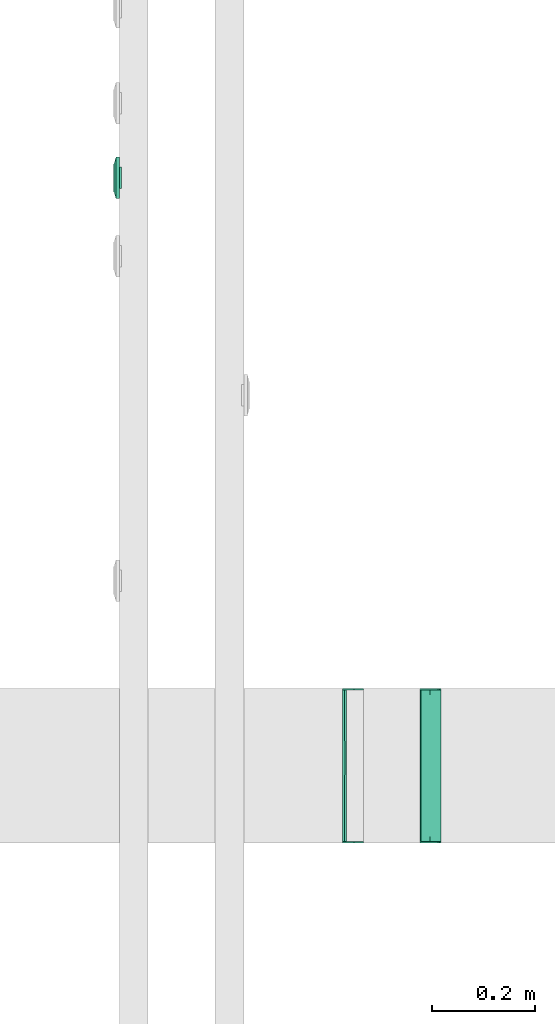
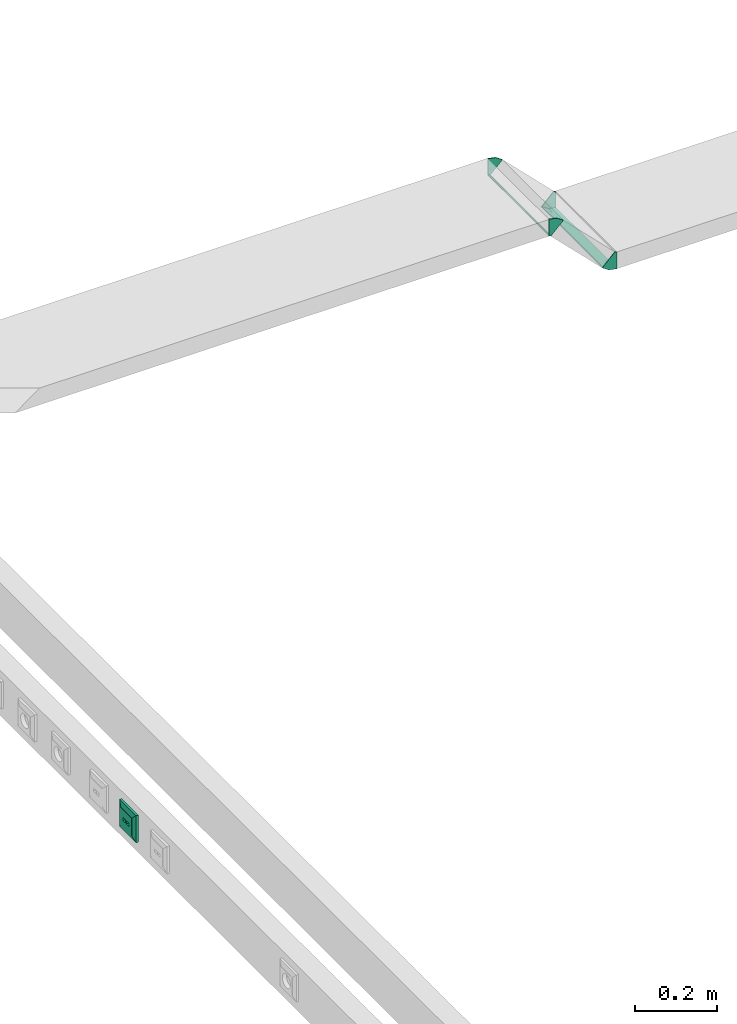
# One storey, part 53 of 166: 2 flow fittings, 1 flow terminal.
"""IFC2X3 building model written with IfcOpenShell, lengths in metres."""

from ifc_helpers import new_model, entity, si_unit, converted_unit, derived_unit, direction, frame, origin, place, context, subcontext, project, spatial, faceted_brep, source, transform, mapped, type_object, type_shapes, element, save


model = new_model("IFC2X3")

# Units and contexts
model_context = context("Model", 3, precision=1e-05, world=origin(), true_north=direction((6.12303176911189e-17, 1.0)))
body_context = subcontext(model_context, "Body", "Model", "MODEL_VIEW")
ifc_project = project(units=[si_unit("LENGTHUNIT", "METRE"), si_unit("AREAUNIT", "SQUARE_METRE"), si_unit("VOLUMEUNIT", "CUBIC_METRE"), converted_unit("PLANEANGLEUNIT", "DEGREE", entity("IfcRatioMeasure", 0.0174532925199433), si_unit("PLANEANGLEUNIT", "RADIAN"), dimensions=[0, 0, 0, 0, 0, 0, 0]), si_unit("MASSUNIT", "GRAM", prefix="KILO"), derived_unit("MASSDENSITYUNIT", [(si_unit("MASSUNIT", "GRAM", prefix="KILO"), 1), (si_unit("LENGTHUNIT", "METRE"), -3)]), si_unit("TIMEUNIT", "SECOND"), si_unit("FREQUENCYUNIT", "HERTZ"), si_unit("THERMODYNAMICTEMPERATUREUNIT", "DEGREE_CELSIUS"), derived_unit("THERMALTRANSMITTANCEUNIT", [(si_unit("MASSUNIT", "GRAM", prefix="KILO"), 1), (si_unit("THERMODYNAMICTEMPERATUREUNIT", "KELVIN"), -1), (si_unit("TIMEUNIT", "SECOND"), -3)]), derived_unit("VOLUMETRICFLOWRATEUNIT", [(si_unit("LENGTHUNIT", "METRE"), 3), (si_unit("TIMEUNIT", "SECOND"), -1)]), si_unit("ELECTRICCURRENTUNIT", "AMPERE"), si_unit("ELECTRICVOLTAGEUNIT", "VOLT"), si_unit("POWERUNIT", "WATT"), si_unit("FORCEUNIT", "NEWTON"), si_unit("ILLUMINANCEUNIT", "LUX"), si_unit("LUMINOUSFLUXUNIT", "LUMEN"), si_unit("LUMINOUSINTENSITYUNIT", "CANDELA"), derived_unit("USERDEFINED", [(si_unit("MASSUNIT", "GRAM", prefix="KILO"), -1), (si_unit("LENGTHUNIT", "METRE"), -2), (si_unit("TIMEUNIT", "SECOND"), 3), (si_unit("LUMINOUSFLUXUNIT", "LUMEN"), 1)]), derived_unit("LINEARVELOCITYUNIT", [(si_unit("LENGTHUNIT", "METRE"), 1), (si_unit("TIMEUNIT", "SECOND"), -1)]), si_unit("PRESSUREUNIT", "PASCAL"), derived_unit("USERDEFINED", [(si_unit("LENGTHUNIT", "METRE"), -2), (si_unit("MASSUNIT", "GRAM", prefix="KILO"), 1), (si_unit("TIMEUNIT", "SECOND"), -2)])], contexts=[model_context])

# Site, building, storey
site_placement = place(None, origin())
site = spatial("IfcSite", under=ifc_project, at=site_placement, Name="Default", CompositionType="ELEMENT")
building_placement = place(site_placement, origin())
building = spatial("IfcBuilding", under=site, at=building_placement, CompositionType="ELEMENT")
storey_placement = place(building_placement, frame((0.0, 0.0, 4.27)))
storey = spatial("IfcBuildingStorey", under=building, at=storey_placement, Name="01", CompositionType="ELEMENT", Elevation=4.27)

# Flow terminal
electric_appliance_type = type_object("IfcElectricApplianceType", Name="RJ45 IP20", PredefinedType="NOTDEFINED")
shared_shape_1 = source(origin(), body_context, "Body", "Brep", [
    faceted_brep([(0.00200000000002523, 0.0, 0.00799999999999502), (0.00400000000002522, 0.0, 0.00799999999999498), (0.00500000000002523, 0.00199999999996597, 0.00799999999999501), (0.0110000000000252, 0.00199999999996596, 0.00799999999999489), (0.0120000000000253, 0.0, 0.00799999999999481), (0.0140000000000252, 0.0, 0.00799999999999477), (0.0140000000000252, 0.00399999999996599, 0.00799999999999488), (0.00200000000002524, 0.00399999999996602, 0.00799999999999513), (0.00200000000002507, 0.0, 0.0), (0.00200000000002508, 0.00399999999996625, 0.0), (0.0140000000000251, 0.00399999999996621, 0.0), (0.0140000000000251, 0.0, 0.0), (0.0120000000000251, 0.0, 0.0), (0.0110000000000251, 0.00199999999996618, 0.0), (0.00500000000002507, 0.0019999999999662, 0.0), (0.00400000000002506, 0.0, 0.0)], [[[0, 1, 2, 3, 4, 5, 6, 7]], [[8, 9, 10, 11, 12, 13, 14, 15]], [[1, 0, 8, 15]], [[2, 1, 15, 14]], [[3, 2, 14, 13]], [[4, 3, 13, 12]], [[5, 4, 12, 11]], [[6, 5, 11, 10]], [[7, 6, 10, 9]], [[0, 7, 9, 8]]]),
    faceted_brep([(-0.0139999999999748, 0.0, 0.00799999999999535), (-0.0119999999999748, 0.0, 0.00799999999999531), (-0.0109999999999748, 0.00199999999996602, 0.00799999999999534), (-0.00499999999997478, 0.00199999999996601, 0.00799999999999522), (-0.0039999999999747, 0.0, 0.00799999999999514), (-0.00199999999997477, 0.0, 0.0079999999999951), (-0.00199999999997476, 0.00399999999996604, 0.00799999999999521), (-0.0139999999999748, 0.00399999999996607, 0.00799999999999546), (-0.0139999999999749, 0.0, 0.0), (-0.0139999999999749, 0.00399999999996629, 0.0), (-0.00199999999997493, 0.00399999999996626, 0.0), (-0.00199999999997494, 0.0, 0.0), (-0.00399999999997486, 0.0, 0.0), (-0.00499999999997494, 0.00199999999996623, 0.0), (-0.0109999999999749, 0.00199999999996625, 0.0), (-0.0119999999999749, 0.0, 0.0)], [[[0, 1, 2, 3, 4, 5, 6, 7]], [[8, 9, 10, 11, 12, 13, 14, 15]], [[1, 0, 8, 15]], [[2, 1, 15, 14]], [[3, 2, 14, 13]], [[4, 3, 13, 12]], [[5, 4, 12, 11]], [[6, 5, 11, 10]], [[7, 6, 10, 9]], [[0, 7, 9, 8]]]),
    faceted_brep([(0.0140000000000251, 0.00399999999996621, 0.0), (0.00200000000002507, 0.00399999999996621, 0.0), (0.00200000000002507, -0.00350000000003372, 0.0), (0.0140000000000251, -0.00350000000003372, 0.0), (0.0140000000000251, 0.00399999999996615, 0.00199999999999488), (0.00200000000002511, 0.00399999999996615, 0.00199999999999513), (0.00200000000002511, -0.00393859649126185, 0.00199999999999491), (0.0140000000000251, -0.00393859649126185, 0.00199999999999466), (0.0210000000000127, 0.0209999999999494, 0.00199999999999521), (-0.0209999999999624, 0.0209999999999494, 0.00199999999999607), (-0.0209999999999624, -0.0210000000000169, 0.00199999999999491), (0.0210000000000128, -0.0210000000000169, 0.00199999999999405), (-0.0139999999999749, 0.0039999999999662, 0.00199999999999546), (-0.0019999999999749, 0.0039999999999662, 0.00199999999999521), (-0.00199999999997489, -0.0039385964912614, 0.00199999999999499), (-0.0139999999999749, -0.00393859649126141, 0.00199999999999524), (0.0210000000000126, 0.0209999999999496, -0.00460000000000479), (0.0210000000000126, -0.0210000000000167, -0.00460000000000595), (-0.0209999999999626, -0.0210000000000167, -0.00460000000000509), (-0.0209999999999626, 0.0209999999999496, -0.00460000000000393), (-0.00199999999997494, 0.00399999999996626, 0.0), (-0.0139999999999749, 0.00399999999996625, 0.0), (-0.0139999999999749, -0.00350000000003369, 0.0), (-0.00199999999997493, -0.00350000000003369, 0.0)], [[[0, 1, 2, 3]], [[1, 0, 4, 5]], [[2, 1, 5, 6]], [[3, 2, 6, 7]], [[0, 3, 7, 4]], [[5, 4, 7, 6], [8, 9, 10, 11], [12, 13, 14, 15]], [[16, 17, 18, 19]], [[9, 8, 16, 19]], [[10, 9, 19, 18]], [[11, 10, 18, 17]], [[8, 11, 17, 16]], [[20, 21, 22, 23]], [[21, 20, 13, 12]], [[22, 21, 12, 15]], [[23, 22, 15, 14]], [[20, 23, 14, 13]]], outer=[[True], [True], [True], [True], [True], [False, True, False], [True], [True], [True], [True], [True], [True], [True], [True], [True], [True]]),
    faceted_brep([(0.0270000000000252, 0.026999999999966, 0.0113999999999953), (-0.0269999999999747, 0.026999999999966, 0.0113999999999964), (-0.0269999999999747, -0.0270000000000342, 0.0113999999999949), (0.0270000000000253, -0.0270000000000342, 0.0113999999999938), (0.0020000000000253, 0.00399999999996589, 0.0113999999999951), (0.0140000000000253, 0.00399999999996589, 0.0113999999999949), (0.0140000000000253, -0.00600000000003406, 0.0113999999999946), (0.0020000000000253, -0.00600000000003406, 0.0113999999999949), (-0.0139999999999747, 0.00399999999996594, 0.0113999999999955), (-0.00199999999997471, 0.00399999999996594, 0.0113999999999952), (-0.00199999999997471, -0.0060000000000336, 0.0113999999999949), (-0.0139999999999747, -0.00600000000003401, 0.0113999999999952), (0.0270000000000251, 0.0269999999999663, 0.00199999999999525), (0.0270000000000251, -0.0270000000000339, 0.00199999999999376), (-0.0269999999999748, -0.0270000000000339, 0.00199999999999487), (-0.0269999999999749, 0.0269999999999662, 0.00199999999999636), (0.0140000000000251, 0.00399999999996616, 0.00199999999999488), (0.00200000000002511, 0.00399999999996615, 0.00199999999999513), (0.00200000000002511, -0.00393859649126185, 0.00199999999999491), (0.0140000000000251, -0.00393859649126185, 0.00199999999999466), (-0.00199999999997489, 0.0039999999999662, 0.00199999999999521), (-0.0139999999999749, 0.0039999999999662, 0.00199999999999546), (-0.0139999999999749, -0.0039385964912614, 0.00199999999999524), (-0.00199999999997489, -0.0039385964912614, 0.00199999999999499)], [[[0, 1, 2, 3], [4, 5, 6, 7], [8, 9, 10, 11]], [[12, 13, 14, 15], [16, 17, 18, 19], [20, 21, 22, 23]], [[1, 0, 12, 15]], [[2, 1, 15, 14]], [[3, 2, 14, 13]], [[0, 3, 13, 12]], [[4, 17, 16, 5]], [[17, 4, 7, 18]], [[18, 7, 6, 19]], [[5, 16, 19, 6]], [[8, 21, 20, 9]], [[21, 8, 11, 22]], [[22, 11, 10, 23]], [[9, 20, 23, 10]]]),
    faceted_brep([(0.027000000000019, 0.0269999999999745, 0.00659999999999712), (-0.0269999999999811, 0.0269999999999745, 0.00659999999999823), (-0.026999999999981, -0.0270000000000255, 0.00659999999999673), (0.027000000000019, -0.0270000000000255, 0.00659999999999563), (0.040350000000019, 0.0403499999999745, 0.00659999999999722), (0.040350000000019, -0.0403500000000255, 0.00659999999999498), (-0.0403499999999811, -0.0403500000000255, 0.00659999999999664), (-0.0403499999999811, 0.0403499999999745, 0.00659999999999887), (-0.026999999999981, 0.0269999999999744, 0.0103999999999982), (0.027000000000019, 0.0269999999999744, 0.0103999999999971), (-0.026999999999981, -0.0270000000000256, 0.0103999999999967), (0.027000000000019, -0.0270000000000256, 0.0103999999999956)], [[[0, 1, 2, 3], [4, 5, 6, 7]], [[4, 7, 8, 9]], [[7, 6, 10, 8]], [[6, 5, 11, 10]], [[5, 4, 9, 11]], [[0, 9, 8, 1]], [[1, 8, 10, 2]], [[2, 10, 11, 3]], [[9, 0, 3, 11]]], outer=[[False, True], [True], [True], [True], [True], [True], [True], [True], [True]]),
    faceted_brep([(0.040350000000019, 0.0403499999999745, 0.00659999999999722), (-0.0403499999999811, 0.0403499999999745, 0.00659999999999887), (-0.0403499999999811, -0.0403500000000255, 0.00659999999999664), (0.040350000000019, -0.0403500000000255, 0.00659999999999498), (-0.0269999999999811, 0.0269999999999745, 0.00659999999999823), (0.0270000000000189, 0.0269999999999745, 0.00659999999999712), (0.0270000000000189, -0.0270000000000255, 0.00659999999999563), (-0.0269999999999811, -0.0270000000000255, 0.00659999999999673), (0.0403500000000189, 0.0403499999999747, 0.0), (0.0403500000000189, -0.0403500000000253, 0.0), (-0.0403499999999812, -0.0403500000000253, 0.0), (-0.0403499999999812, 0.0403499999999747, 0.0), (0.0270000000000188, 0.0269999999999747, 0.0), (-0.0269999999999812, 0.0269999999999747, 0.0), (-0.0269999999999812, -0.0270000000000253, 0.0), (0.0270000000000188, -0.0270000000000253, 0.0)], [[[0, 1, 2, 3], [4, 5, 6, 7]], [[8, 9, 10, 11], [12, 13, 14, 15]], [[1, 0, 8, 11]], [[2, 1, 11, 10]], [[3, 2, 10, 9]], [[0, 3, 9, 8]], [[12, 5, 4, 13]], [[13, 4, 7, 14]], [[14, 7, 6, 15]], [[5, 12, 15, 6]]]),
])
type_shapes(electric_appliance_type, [shared_shape_1])
flow_terminal_placement = place(building_placement, frame((33.3667436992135, -186.945297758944, 4.70800000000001), z_axis=(-1.0, 0.0, 0.0), x_axis=(0.0, -1.0, 0.0)))
element("IfcFlowTerminal", 1, at=flow_terminal_placement, inside=storey, type_object=electric_appliance_type, Name="INT_Prise RJ45:RJ45 IP20", ObjectType="INT_Prise RJ45:RJ45 IP20", context=body_context, shape_type="MappedRepresentation", body=[
    mapped(shared_shape_1, transform((0.0, 0.0, 0.0), scale=1.0)),
])

# Flow fittings
cable_carrier_fitting_type_1 = type_object("IfcCableCarrierFittingType", Name="E_Bend_Vertical_Inside_CA_Generic_MEPcontent", PredefinedType="NOTDEFINED")
shared_shape_2 = source(origin(), body_context, "Body", "Brep", [
    faceted_brep([(-0.00886744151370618, 0.0264878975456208, 0.14746000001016), (-0.00886744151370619, 0.0264878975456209, 0.15), (0.0264878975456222, -0.00886744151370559, 0.15), (0.0264878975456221, -0.0088674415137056, 0.0), (0.0264878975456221, -0.00886744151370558, -0.15), (-0.00886744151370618, 0.0264878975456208, -0.15), (-0.00886744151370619, 0.0264878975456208, -0.14746000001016), (0.0246918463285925, -0.00707139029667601, -0.14746000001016), (0.0246918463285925, -0.00707139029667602, 0.0), (0.0246918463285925, -0.007071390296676, 0.14746000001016), (-0.0124595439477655, 0.025, -0.14746000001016), (-0.0124595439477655, 0.025, -0.15), (-0.0124595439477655, -0.025, -0.15), (-0.0124595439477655, -0.025, 0.0), (-0.0124595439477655, -0.025, 0.15), (-0.0124595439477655, 0.025, 0.15), (-0.0124595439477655, 0.025, 0.14746000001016), (-0.0124595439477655, -0.02246000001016, 0.14746000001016), (-0.0124595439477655, -0.02246000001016, 0.0), (-0.0124595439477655, -0.02246000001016, -0.14746000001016), (-0.00192044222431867, -0.0229036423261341, 0.15), (0.00861865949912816, -0.0208072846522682, 0.15), (0.0175532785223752, -0.0148373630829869, 0.15), (-0.0105155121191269, 0.0253866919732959, 0.15), (-0.0105155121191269, 0.0253866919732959, 0.14746000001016), (0.0161692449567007, -0.0127660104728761, 0.14746000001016), (0.00764664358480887, -0.0184606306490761, 0.14746000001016), (-0.00240645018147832, -0.0204603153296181, 0.14746000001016), (-0.00240645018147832, -0.0204603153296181, -0.14746000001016), (0.00764664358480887, -0.0184606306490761, -0.14746000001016), (0.0161692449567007, -0.0127660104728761, -0.14746000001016), (-0.0105155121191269, 0.0253866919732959, -0.14746000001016), (-0.0105155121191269, 0.0253866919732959, -0.15), (0.0175532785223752, -0.0148373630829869, -0.15), (0.00861865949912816, -0.0208072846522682, -0.15), (-0.00192044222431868, -0.0229036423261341, -0.15), (0.00352933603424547, -0.0226282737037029, 0.0), (0.0151733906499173, -0.0175669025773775, 0.0), (0.00279201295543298, -0.0201976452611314, 0.0), (0.0144110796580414, -0.0150688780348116, 0.0)], [[[0, 1, 2, 3, 4, 5, 6, 7, 8, 9]], [[10, 11, 12, 13, 14, 15, 16, 17, 18, 19]], [[15, 14, 20, 21, 22, 2, 1, 23]], [[24, 0, 9, 25, 26, 27, 17, 16]], [[10, 19, 28, 29, 30, 7, 6, 31]], [[32, 5, 4, 33, 34, 35, 12, 11]], [[35, 36, 13]], [[33, 3, 37]], [[34, 36, 35]], [[34, 37, 36]], [[37, 3, 22]], [[3, 33, 4]], [[2, 22, 3]], [[21, 20, 36]], [[37, 21, 36]], [[37, 34, 33]], [[20, 13, 36]], [[13, 20, 14]], [[12, 35, 13]], [[22, 21, 37]], [[31, 32, 11, 10]], [[15, 23, 24, 16]], [[6, 5, 32, 31]], [[1, 0, 24, 23]], [[18, 38, 28]], [[39, 8, 30]], [[28, 38, 29]], [[38, 39, 29]], [[25, 8, 39]], [[7, 30, 8]], [[8, 25, 9]], [[38, 27, 26]], [[38, 26, 39]], [[30, 29, 39]], [[38, 18, 27]], [[17, 27, 18]], [[18, 28, 19]], [[39, 26, 25]]]),
    faceted_brep([(-0.00886744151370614, 0.0264878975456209, 0.15), (-0.00886744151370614, 0.0264878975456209, 0.14746000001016), (0.0246918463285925, -0.00707139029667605, 0.14746000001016), (0.0246918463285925, -0.00707139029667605, -0.14746000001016), (-0.00886744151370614, 0.0264878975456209, -0.14746000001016), (-0.00886744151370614, 0.0264878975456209, -0.15), (0.0264878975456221, -0.00886744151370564, -0.15), (0.0264878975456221, -0.00886744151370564, 0.15), (-0.00816033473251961, 0.0271950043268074, 0.15), (0.0271950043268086, -0.00816033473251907, 0.15), (0.0271950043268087, -0.00816033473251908, -0.15), (-0.00816033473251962, 0.0271950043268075, -0.15), (-0.00816033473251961, 0.0271950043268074, -0.14746000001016), (0.025398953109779, -0.00636428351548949, -0.14746000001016), (0.025398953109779, -0.00636428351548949, 0.14746000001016), (-0.00816033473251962, 0.0271950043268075, 0.14746000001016)], [[[0, 1, 2, 3, 4, 5, 6, 7]], [[8, 9, 10, 11, 12, 13, 14, 15]], [[6, 5, 11, 10]], [[4, 3, 13, 12]], [[2, 1, 15, 14]], [[0, 7, 9, 8]], [[1, 0, 8, 15]], [[3, 2, 14, 13]], [[5, 4, 12, 11]], [[7, 6, 10, 9]]]),
    faceted_brep([(-0.0124595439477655, 0.025, 0.15), (-0.0124595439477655, -0.025, 0.15), (-0.0124595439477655, -0.025, -0.15), (-0.0124595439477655, 0.025, -0.15), (-0.0124595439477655, 0.025, -0.14746000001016), (-0.0124595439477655, -0.02246000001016, -0.14746000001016), (-0.0124595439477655, -0.02246000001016, 0.14746000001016), (-0.0124595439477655, 0.025, 0.14746000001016), (-0.0134595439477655, 0.025, 0.15), (-0.0134595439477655, 0.025, 0.14746000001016), (-0.0134595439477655, -0.02246000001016, 0.14746000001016), (-0.0134595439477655, -0.02246000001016, -0.14746000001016), (-0.0134595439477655, 0.025, -0.14746000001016), (-0.0134595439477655, 0.025, -0.15), (-0.0134595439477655, -0.025, -0.15), (-0.0134595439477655, -0.025, 0.15)], [[[0, 1, 2, 3, 4, 5, 6, 7]], [[8, 9, 10, 11, 12, 13, 14, 15]], [[1, 0, 8, 15]], [[7, 6, 10, 9]], [[5, 4, 12, 11]], [[3, 2, 14, 13]], [[2, 1, 15, 14]], [[4, 3, 13, 12]], [[6, 5, 11, 10]], [[0, 7, 9, 8]]]),
])
type_shapes(cable_carrier_fitting_type_1, [shared_shape_2])
flow_fitting_1_placement = place(storey_placement, frame((33.978385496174, -188.087883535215, 2.67095756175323), z_axis=(0.0, 1.0, 0.0), x_axis=(-1.0, 0.0, 0.0)))
element("IfcFlowFitting", 2, at=flow_fitting_1_placement, inside=storey, type_object=cable_carrier_fitting_type_1, Name="E_Bend_Vertical_Inside_CA_Generic_MEPcontent:E_Bend_Vertical_Inside_CA_Generic_MEPcontent", ObjectType="E_Bend_Vertical_Inside_CA_Generic_MEPcontent:E_Bend_Vertical_Inside_CA_Generic_MEPcontent", context=body_context, shape_type="MappedRepresentation", body=[
    mapped(shared_shape_2, transform((0.0, 0.0, 0.0), scale=1.0)),
])
cable_carrier_fitting_type_2 = type_object("IfcCableCarrierFittingType", Name="E_Bend_Vertical_Outside_CA_Generic_MEPcontent", PredefinedType="NOTDEFINED")
shared_shape_3 = source(origin(), body_context, "Body", "Brep", [
    faceted_brep([(-0.00707139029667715, 0.0246918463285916, 0.14746000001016), (-0.00707139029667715, 0.0246918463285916, 0.123363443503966), (-0.00707139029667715, 0.0246918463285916, 0.0963862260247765), (-0.00707139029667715, 0.0246918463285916, 0.0708493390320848), (-0.00707139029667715, 0.0246918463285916, 0.045312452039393), (-0.00707139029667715, 0.0246918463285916, 0.0212158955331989), (-0.00707139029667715, 0.0246918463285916, -0.00288066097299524), (-0.00707139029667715, 0.0246918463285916, -0.0269772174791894), (-0.00707139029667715, 0.0246918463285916, -0.0510737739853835), (-0.00707139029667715, 0.0246918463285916, -0.0751703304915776), (-0.00707139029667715, 0.0246918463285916, -0.0992668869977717), (-0.00707139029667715, 0.0246918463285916, -0.123363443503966), (-0.00707139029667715, 0.0246918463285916, -0.14746000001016), (0.0264878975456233, -0.00886744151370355, -0.14746000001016), (0.0264878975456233, -0.00886744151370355, -0.15), (-0.00886744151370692, 0.026487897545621, -0.15), (-0.00886744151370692, 0.026487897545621, -0.130325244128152), (-0.00886744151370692, 0.026487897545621, -0.110650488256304), (-0.00886744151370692, 0.026487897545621, -0.0909757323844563), (-0.00886744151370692, 0.026487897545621, -0.0713009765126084), (-0.00886744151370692, 0.026487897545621, -0.0516262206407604), (-0.00886744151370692, 0.026487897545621, -0.0319514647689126), (-0.00886744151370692, 0.026487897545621, -0.0122767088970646), (-0.00886744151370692, 0.026487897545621, 0.00739804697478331), (-0.00886744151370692, 0.026487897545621, 0.0252232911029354), (-0.00886744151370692, 0.026487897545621, 0.0430485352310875), (-0.00886744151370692, 0.026487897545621, 0.0608737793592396), (-0.00886744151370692, 0.026487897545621, 0.0786990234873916), (-0.00886744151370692, 0.026487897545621, 0.0946747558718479), (-0.00886744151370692, 0.026487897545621, 0.110650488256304), (-0.00886744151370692, 0.026487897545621, 0.130325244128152), (-0.00886744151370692, 0.026487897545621, 0.15), (0.0264878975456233, -0.00886744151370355, 0.15), (0.0264878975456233, -0.00886744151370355, 0.14746000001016), (-0.0124595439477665, 0.02246000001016, -0.14746000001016), (-0.0124595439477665, 0.02246000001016, -0.123363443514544), (-0.0124595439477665, 0.02246000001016, -0.0992668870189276), (-0.0124595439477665, 0.02246000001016, -0.0751703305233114), (-0.0124595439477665, 0.02246000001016, -0.0510737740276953), (-0.0124595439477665, 0.02246000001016, -0.0255368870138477), (-0.0124595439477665, 0.02246000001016, 0.0), (-0.0124595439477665, 0.02246000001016, 0.03686500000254), (-0.0124595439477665, 0.02246000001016, 0.05529750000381), (-0.0124595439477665, 0.02246000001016, 0.07373000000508), (-0.0124595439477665, 0.02246000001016, 0.11059500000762), (-0.0124595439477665, 0.02246000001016, 0.14746000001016), (-0.0124595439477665, -0.025, 0.14746000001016), (-0.0124595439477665, -0.025, 0.15), (-0.0124595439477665, 0.025, 0.15), (-0.0124595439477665, 0.025, 0.130325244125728), (-0.0124595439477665, 0.025, 0.1125), (-0.0124595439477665, 0.025, 0.09375), (-0.0124595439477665, 0.025, 0.075), (-0.0124595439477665, 0.025, 0.05625), (-0.0124595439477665, 0.025, 0.0375), (-0.0124595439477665, 0.025, 0.01875), (-0.0124595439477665, 0.025, 0.0), (-0.0124595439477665, 0.025, -0.0178252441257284), (-0.0124595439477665, 0.025, -0.0356504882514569), (-0.0124595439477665, 0.025, -0.0534757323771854), (-0.0124595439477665, 0.025, -0.0713009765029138), (-0.0124595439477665, 0.025, -0.0909757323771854), (-0.0124595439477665, 0.025, -0.110650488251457), (-0.0124595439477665, 0.025, -0.130325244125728), (-0.0124595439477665, 0.025, -0.15), (-0.0124595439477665, -0.025, -0.15), (-0.0124595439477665, -0.025, -0.14746000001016), (-0.00192044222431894, -0.0229036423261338, 0.15), (0.00861865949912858, -0.0208072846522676, 0.15), (0.0175532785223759, -0.0148373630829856, 0.15), (-0.0105155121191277, 0.025386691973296, 0.15), (-0.00456795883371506, -0.0234302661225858, 0.14746000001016), (0.00861865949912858, -0.0208072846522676, 0.14746000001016), (-0.00192044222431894, -0.0229036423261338, -0.15), (0.00861865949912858, -0.0208072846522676, -0.15), (0.00861865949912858, -0.0208072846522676, -0.14746000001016), (-0.00192044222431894, -0.0229036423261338, -0.14746000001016), (0.0175532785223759, -0.0148373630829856, 0.14746000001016), (0.0197977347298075, -0.0133376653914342, -0.15), (0.0175532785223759, -0.0148373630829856, -0.14746000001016), (-0.00954349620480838, 0.023040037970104, 0.14746000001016), (-0.00954349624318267, 0.0230400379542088, -0.0631220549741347), (-0.00954270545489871, 0.0230403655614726, -0.0382951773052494), (-0.00954349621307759, 0.0230400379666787, -0.11131516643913), (-0.00954349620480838, 0.023040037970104, -0.14746000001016), (-0.00934317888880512, 0.0231263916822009, 0.0332641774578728), (-0.00982348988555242, 0.0229304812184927, 0.124114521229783), (-0.00961193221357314, 0.0230120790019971, 0.0645137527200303), (-0.00948913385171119, 0.0230628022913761, -0.0872186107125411), (-0.00945057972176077, 0.023079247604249, 0.00916762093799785), (-0.00981715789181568, 0.0229328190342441, 0.0889891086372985), (-0.00946151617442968, 0.0230745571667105, -0.0145678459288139), (-0.0105155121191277, 0.025386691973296, -0.15), (-0.0106356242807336, 0.0253387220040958, -0.026737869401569), (-0.0104683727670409, 0.0254064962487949, -0.0429918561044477), (-0.0105155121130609, 0.0253866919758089, -0.105328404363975), (-0.0105155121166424, 0.0253866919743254, -0.120487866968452), (-0.0105155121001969, 0.0253866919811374, -0.0623883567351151), (-0.0105155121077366, 0.0253866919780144, -0.0781480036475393), (-0.01051551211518, 0.0253866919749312, 0.121412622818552), (-0.010348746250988, 0.0254592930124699, 0.016310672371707), (-0.0104407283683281, 0.0254183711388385, 0.00148144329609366), (-0.0106519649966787, 0.0253324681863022, -0.0125818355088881), (-0.010483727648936, 0.025399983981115, 0.0866868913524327), (-0.0105609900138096, 0.0253681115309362, 0.106209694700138), (-0.0103966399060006, 0.02543771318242, 0.135706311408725), (-0.010551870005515, 0.0253717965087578, -0.135243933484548), (-0.0104226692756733, 0.0254262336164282, 0.071338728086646), (-0.0104368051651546, 0.0254200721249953, 0.03716180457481), (-0.0103768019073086, 0.0254465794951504, 0.0519611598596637), (-0.0104363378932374, 0.0254202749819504, -0.0917382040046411)], [[[0, 1, 2, 3, 4, 5, 6, 7, 8, 9, 10, 11, 12, 13, 14, 15, 16, 17, 18, 19, 20, 21, 22, 23, 24, 25, 26, 27, 28, 29, 30, 31, 32, 33]], [[34, 35, 36, 37, 38, 39, 40, 41, 42, 43, 44, 45, 46, 47, 48, 49, 50, 51, 52, 53, 54, 55, 56, 57, 58, 59, 60, 61, 62, 63, 64, 65, 66]], [[48, 47, 67, 68, 69, 32, 31, 70]], [[67, 47, 46, 71, 72, 68]], [[65, 73, 74, 75, 76, 66]], [[69, 68, 72, 77, 33, 32]], [[74, 78, 14, 13, 79, 75]], [[80, 0, 33, 77, 72, 71, 46, 45]], [[81, 8, 82]], [[81, 82, 38]], [[83, 84, 12, 11, 10]], [[1, 0, 80]], [[5, 4, 85]], [[86, 1, 80]], [[85, 4, 87]], [[86, 45, 44]], [[38, 82, 39]], [[81, 88, 9]], [[42, 41, 85]], [[89, 6, 5]], [[8, 81, 9]], [[36, 88, 37]], [[2, 86, 90]], [[87, 90, 43]], [[89, 41, 40]], [[35, 34, 84, 83, 36]], [[36, 83, 88]], [[10, 9, 88]], [[82, 91, 39]], [[82, 7, 91]], [[89, 91, 6]], [[89, 5, 85]], [[91, 40, 39]], [[91, 89, 40]], [[81, 38, 37]], [[7, 82, 8]], [[7, 6, 91]], [[37, 88, 81]], [[10, 88, 83]], [[87, 42, 85]], [[89, 85, 41]], [[90, 87, 3]], [[4, 3, 87]], [[43, 42, 87]], [[90, 3, 2]], [[86, 2, 1]], [[44, 43, 90]], [[45, 86, 80]], [[90, 86, 44]], [[34, 66, 76, 75, 79, 13, 12, 84]], [[92, 15, 14, 78, 74, 73, 65, 64]], [[93, 94, 58]], [[95, 96, 63, 62, 61]], [[60, 97, 98]], [[50, 49, 99]], [[100, 101, 56]], [[56, 102, 57]], [[17, 16, 96]], [[28, 103, 104]], [[49, 105, 99]], [[106, 16, 15]], [[19, 18, 98, 97, 20]], [[99, 30, 29]], [[17, 96, 95, 18]], [[92, 64, 106]], [[52, 107, 53]], [[57, 93, 58]], [[105, 49, 48]], [[16, 106, 96]], [[104, 99, 29]], [[107, 52, 103]], [[51, 104, 103]], [[105, 70, 31]], [[99, 105, 30]], [[24, 23, 100]], [[108, 100, 55]], [[50, 99, 104]], [[25, 108, 109]], [[104, 51, 50]], [[26, 25, 109]], [[27, 103, 28]], [[104, 29, 28]], [[51, 103, 52]], [[107, 109, 53]], [[107, 103, 27]], [[108, 54, 109]], [[107, 27, 26]], [[26, 109, 107]], [[53, 109, 54]], [[54, 108, 55]], [[108, 25, 24]], [[106, 63, 96]], [[24, 100, 108]], [[55, 100, 56]], [[101, 22, 102]], [[101, 100, 23]], [[101, 23, 22]], [[102, 93, 57]], [[59, 94, 97]], [[21, 93, 22]], [[21, 94, 93]], [[20, 94, 21]], [[59, 58, 94]], [[60, 59, 97]], [[98, 61, 60]], [[20, 97, 94]], [[110, 95, 61]], [[98, 18, 110]], [[93, 102, 22]], [[101, 102, 56]], [[30, 105, 31]], [[48, 70, 105]], [[63, 106, 64]], [[15, 92, 106]], [[98, 110, 61]], [[110, 18, 95]]]),
    faceted_brep([(-0.00886744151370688, 0.0264878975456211, 0.15), (-0.00886744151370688, 0.0264878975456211, -0.15), (0.0264878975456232, -0.00886744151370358, -0.15), (0.0264878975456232, -0.00886744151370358, -0.14746000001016), (-0.00707139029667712, 0.0246918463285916, -0.14746000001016), (-0.00707139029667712, 0.0246918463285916, 0.14746000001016), (0.0264878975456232, -0.00886744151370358, 0.14746000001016), (0.0264878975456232, -0.00886744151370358, 0.15), (-0.0081603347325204, 0.0271950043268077, 0.15), (0.0271950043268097, -0.00816033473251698, 0.15), (0.0271950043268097, -0.00816033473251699, 0.14746000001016), (-0.00636428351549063, 0.0253989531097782, 0.14746000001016), (-0.00636428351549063, 0.0253989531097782, -0.14746000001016), (0.0271950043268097, -0.00816033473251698, -0.14746000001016), (0.0271950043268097, -0.00816033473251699, -0.15), (-0.00816033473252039, 0.0271950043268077, -0.15)], [[[0, 1, 2, 3, 4, 5, 6, 7]], [[8, 9, 10, 11, 12, 13, 14, 15]], [[1, 0, 8, 15]], [[2, 1, 15, 14]], [[3, 2, 14, 13]], [[4, 3, 13, 12]], [[5, 4, 12, 11]], [[6, 5, 11, 10]], [[7, 6, 10, 9]], [[0, 7, 9, 8]]]),
    faceted_brep([(-0.0124595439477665, 0.025, 0.15), (-0.0124595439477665, -0.025, 0.15), (-0.0124595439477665, -0.025, 0.14746000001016), (-0.0124595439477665, 0.02246000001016, 0.14746000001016), (-0.0124595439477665, 0.02246000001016, -0.14746000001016), (-0.0124595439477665, -0.025, -0.14746000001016), (-0.0124595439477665, -0.025, -0.15), (-0.0124595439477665, 0.025, -0.15), (-0.0134595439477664, 0.025, 0.15), (-0.0134595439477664, 0.025, -0.15), (-0.0134595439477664, -0.025, -0.15), (-0.0134595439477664, -0.025, -0.14746000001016), (-0.0134595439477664, 0.02246000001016, -0.14746000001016), (-0.0134595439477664, 0.02246000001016, 0.14746000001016), (-0.0134595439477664, -0.025, 0.14746000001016), (-0.0134595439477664, -0.025, 0.15)], [[[0, 1, 2, 3, 4, 5, 6, 7]], [[8, 9, 10, 11, 12, 13, 14, 15]], [[1, 0, 8, 15]], [[2, 1, 15, 14]], [[3, 2, 14, 13]], [[4, 3, 13, 12]], [[5, 4, 12, 11]], [[6, 5, 11, 10]], [[7, 6, 10, 9]], [[0, 7, 9, 8]]]),
])
type_shapes(cable_carrier_fitting_type_2, [shared_shape_3])
flow_fitting_2_placement = place(storey_placement, frame((33.8143367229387, -188.087883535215, 2.83500633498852), z_axis=(0.0, 1.0, 0.0), x_axis=(1.0, 0.0, 0.0)))
element("IfcFlowFitting", 3, at=flow_fitting_2_placement, inside=storey, type_object=cable_carrier_fitting_type_2, Name="E_Bend_Vertical_Outside_CA_Generic_MEPcontent:E_Bend_Vertical_Outside_CA_Generic_MEPcontent", ObjectType="E_Bend_Vertical_Outside_CA_Generic_MEPcontent:E_Bend_Vertical_Outside_CA_Generic_MEPcontent", context=body_context, shape_type="MappedRepresentation", body=[
    mapped(shared_shape_3, transform((0.0, 0.0, 0.0), scale=1.0)),
])

save(model, "model.ifc")
